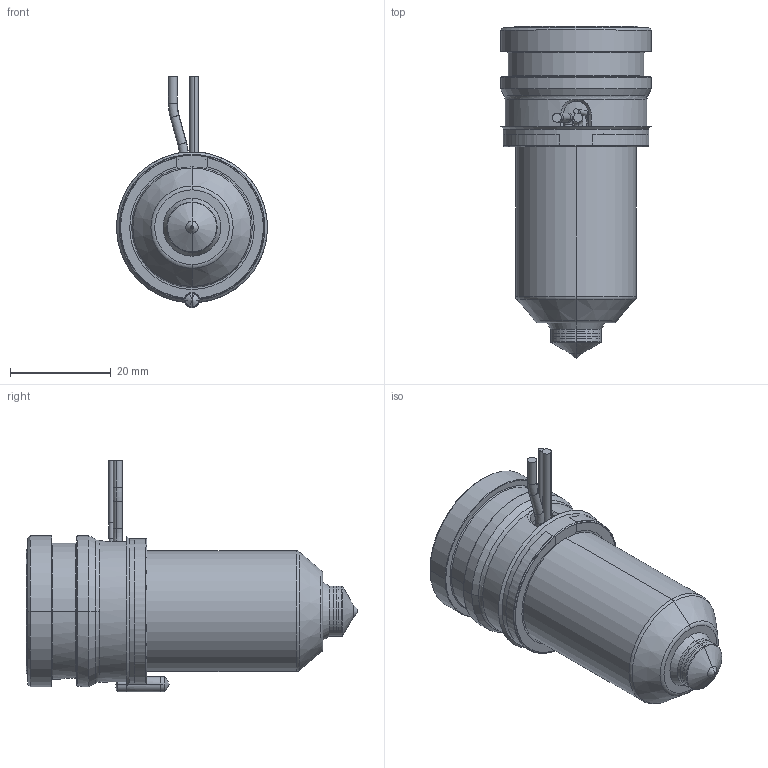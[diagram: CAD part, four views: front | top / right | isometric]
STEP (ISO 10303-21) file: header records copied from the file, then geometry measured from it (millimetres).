
FILE_DESCRIPTION((''),'2;1');
FILE_NAME('MPN-10-29-TS10-046-A','2026-02-05T12:32:27',('UPTIO'),('Thermoplay S.p.A.'),'CREO PARAMETRIC BY PTC INC, 2023494','CREO PARAMETRIC BY PTC INC, 2023494','');
FILE_SCHEMA(('CONFIG_CONTROL_DESIGN','SHAPE_APPEARANCE_LAYERS_GROUPS'));
Length unit declared in the file: millimetre
Products named in the file (1): MPN-10-29-TS10-046-A
Bounding box: 30 x 66 x 46 mm (x, y, z)
Volume: 22518.1 mm3; surface area: 21077.9 mm2
Topology: 2 solids, 3 shells, 523 faces, 1383 edges, 856 vertices
Faces by surface type: cylinder 178, plane 134, bspline 67, cone 66, torus 63, sphere 11, extrusion 4
Entity records: 28589 total; most frequent: CARTESIAN_POINT 13028, ORIENTED_EDGE 2750, DIRECTION 2523, EDGE_CURVE 1375, AXIS2_PLACEMENT_3D 998, VERTEX_POINT 856, EDGE_LOOP 551, CIRCLE 545
